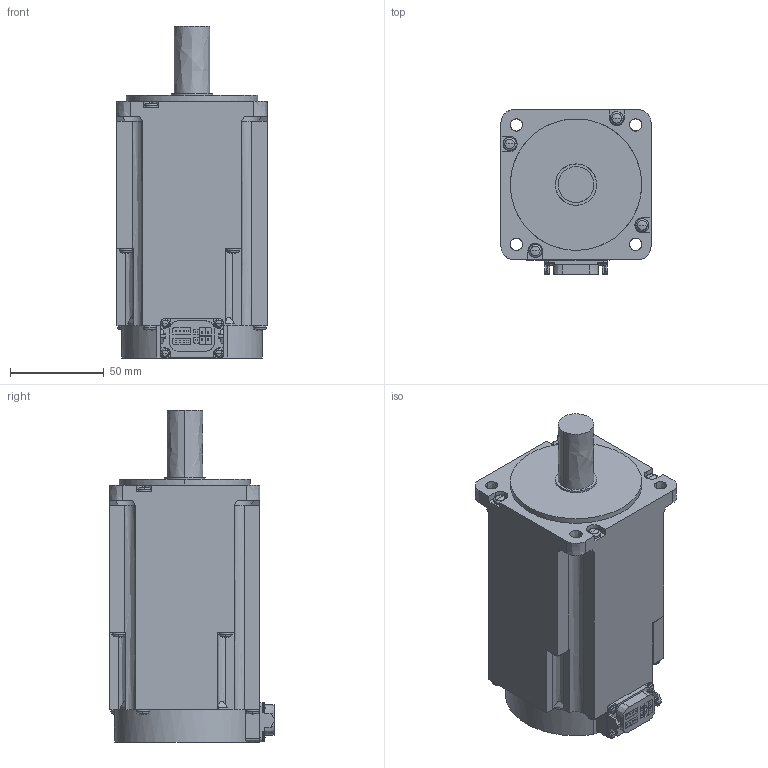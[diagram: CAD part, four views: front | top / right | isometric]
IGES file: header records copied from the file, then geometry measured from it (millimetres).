
Start section:  PTC IGES file: hk-kt103wb_-_asm.igs
Global section: file name: hk-kt103wb_-_asm.igs; native system: Creo Parametric by PTC Inc.; preprocessor: 2016380; author: XE90682; organization: Unknown; date: 20190116.112217; units: millimetre
Bounding box: 80 x 87.65 x 177 mm (x, y, z)
Volume: 776734.6 mm3; surface area: 58797.5 mm2
Topology: 1 solids, 1 shells, 401 faces, 1043 edges, 655 vertices
Faces by surface type: bspline 401
